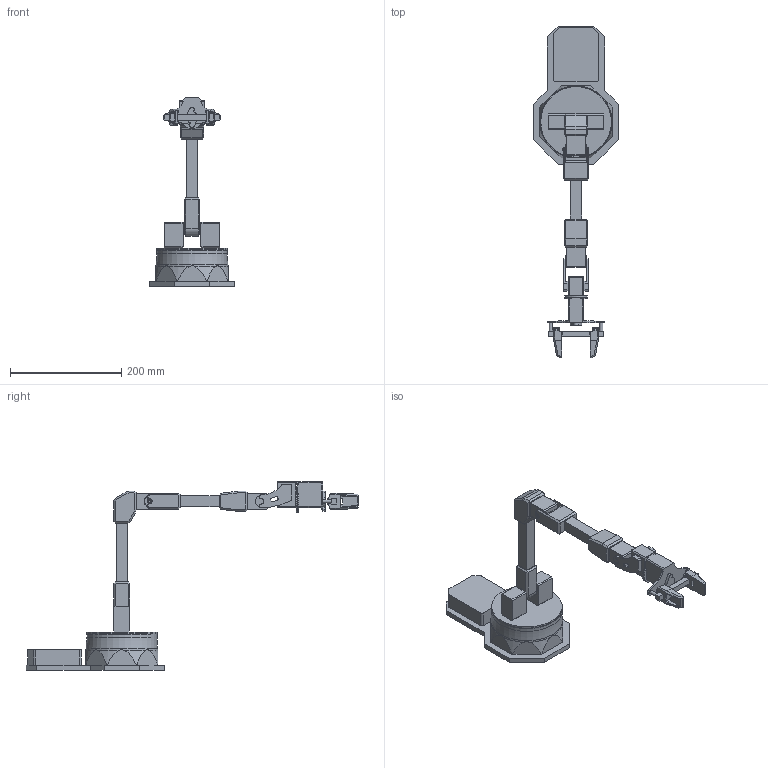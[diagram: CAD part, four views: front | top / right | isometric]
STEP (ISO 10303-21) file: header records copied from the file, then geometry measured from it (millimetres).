
FILE_DESCRIPTION(/* description */ (''),/* implementation_level */ '2;1');
FILE_NAME(/* name */ 'C:/Users/TR1/Desktop/4_RXA-200-M/4_RXA-200-M/4 - RXA-200-M.step',/* time_stamp */ '2019-08-28T13:04:19-05:00',/* author */ (''),/* organization */ (''),/* preprocessor_version */ 'ST-DEVELOPER v18',/* originating_system */ 'Autodesk Translation Framework v8.6.0.1094',/* authorisation */ '');
FILE_SCHEMA (('AUTOMOTIVE_DESIGN { 1 0 10303 214 3 1 1 }'));
Length unit declared in the file: millimetre
Products named in the file (9): 4 - RXA-200-M; Base; Skirt-120 v2; Shoulder; UA - 4 - RX-200 v2; Fore - 4 - RX-200 v2; 430 - Wrist v3; SRG v3; SRG Carriage With Finger v3
Assembly tree (9 placements, depth 3):
  4 - RXA-200-M
    Base
      Skirt-120 v2
    Shoulder
    UA - 4 - RX-200 v2
    Fore - 4 - RX-200 v2
    430 - Wrist v3
    SRG v3
    SRG Carriage With Finger v3  x2
Bounding box: 153.07 x 596.15 x 338.72 mm (x, y, z)
Volume: 1384031.8 mm3; surface area: 327092.3 mm2
Topology: 16 solids, 18 shells, 605 faces, 1542 edges, 989 vertices
Faces by surface type: plane 447, cylinder 124, cone 29, bspline 4, torus 1
Full cylindrical faces by diameter (mm): 3.8 x4, 4.5 x1, 4.9 x2, 6.3 x2, 8 x1, 12 x1, 19.5 x2, 20.5 x4, 40 x1, 92 x1, 120.25 x1, 121 x1, 126.875 x1, 127 x1
Entity records: 16948 total; most frequent: CARTESIAN_POINT 3321, ORIENTED_EDGE 2770, DIRECTION 2766, EDGE_CURVE 1385, LINE 1022, VECTOR 1022, VERTEX_POINT 885, AXIS2_PLACEMENT_3D 872
